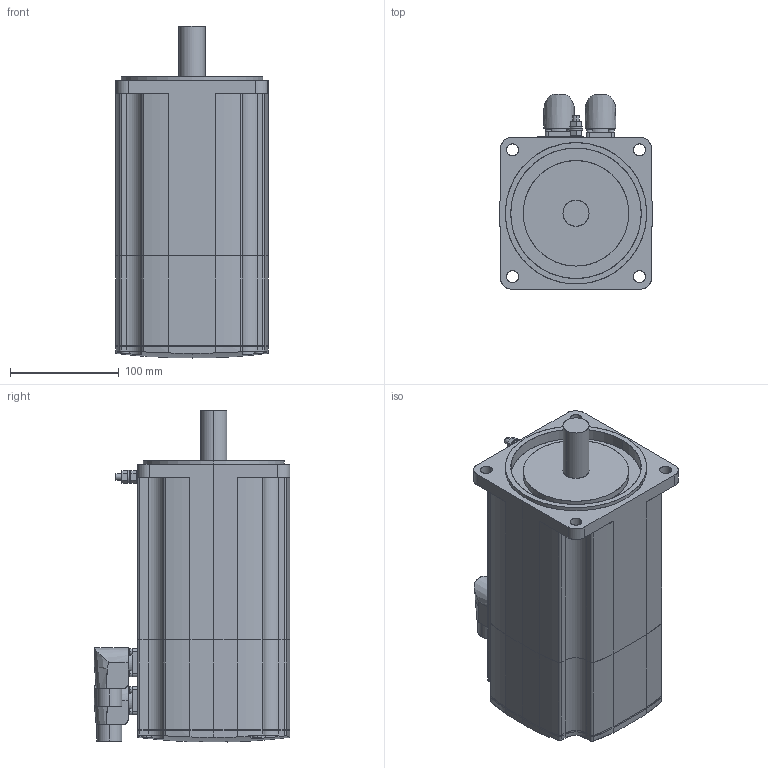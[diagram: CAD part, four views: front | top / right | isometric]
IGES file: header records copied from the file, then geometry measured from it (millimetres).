
Start section: SolidWorks IGES file using analytic representation for surfaces
Global section: file name: C:\PDM\SW-SAP\AA-IGES\SH31401x0xF2100.IGS; native system: SolidWorks 2010; preprocessor: SolidWorks 2010; author: SESA21951; date: 131129.110736; units: millimetre
Bounding box: 140 x 179.9 x 305.35 mm (x, y, z)
Surface area: 301141 mm2 (no closed solid volume)
Topology: 0 solids, 0 shells, 444 faces, 6758 edges, 6758 vertices
Faces by surface type: revolution 239, bspline 205
